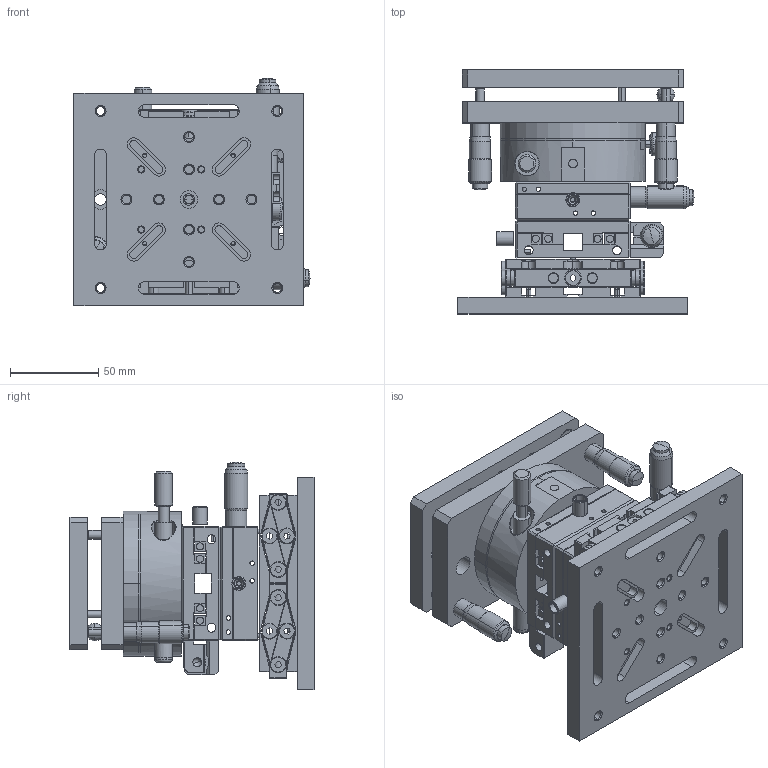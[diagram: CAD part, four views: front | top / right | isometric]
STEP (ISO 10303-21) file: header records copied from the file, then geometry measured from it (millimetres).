
FILE_DESCRIPTION (( 'STEP AP203' ), '1' );
FILE_NAME ('HGAM602 六维位移台三维模型图.STEP', '2021-04-23T02:37:33', ( '' ), ( '' ), 'SwSTEP 2.0', 'SolidWorks 2016', '' );
FILE_SCHEMA (( 'CONFIG_CONTROL_DESIGN' ));
Length unit declared in the file: millimetre
Products named in the file (1): HGAM602 六维位移台三维模型图
Bounding box: 133.5 x 138 x 128.5 mm (x, y, z)
Surface area: 242743.2 mm2 (no closed solid volume)
Topology: 0 solids, 97 shells, 1316 faces, 4496 edges, 3251 vertices
Faces by surface type: plane 586, cylinder 563, cone 149, sphere 14, torus 2, bspline 2
Entity records: 51146 total; most frequent: CARTESIAN_POINT 10260, DIRECTION 9061, ORIENTED_EDGE 7250, EDGE_CURVE 4483, AXIS2_PLACEMENT_3D 3325, VERTEX_POINT 3244, LINE 2411, VECTOR 2411
